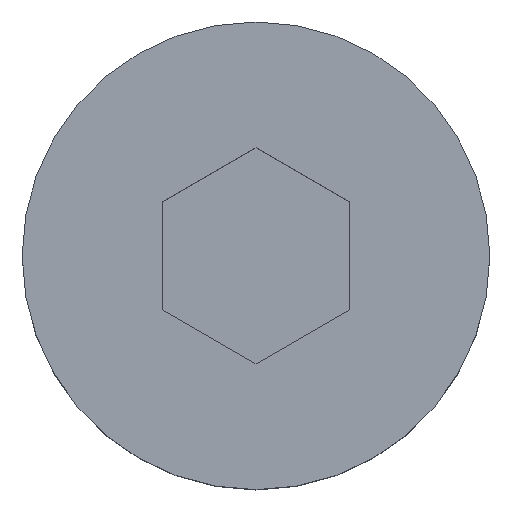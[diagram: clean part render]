
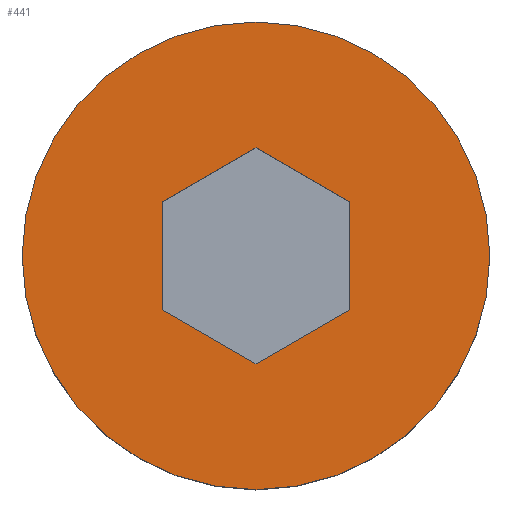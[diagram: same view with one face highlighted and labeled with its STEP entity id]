
A CAD part, top view. The second image highlights one B-rep face of the part: STEP entity #441.
In plain terms, the highlighted planar face has unit normal (0, 0, 1).
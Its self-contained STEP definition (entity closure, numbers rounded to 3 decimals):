
#63 = AXIS2_PLACEMENT_3D ( 'NONE', #468, #466, #451 ) ;
#88 = AXIS2_PLACEMENT_3D ( 'NONE', #752, #748, #743 ) ;
#98 = VERTEX_POINT ( 'NONE', #727 ) ;
#123 = VERTEX_POINT ( 'NONE', #692 ) ;
#156 = DIRECTION ( 'NONE',  ( -1., 0., 0. ) ) ;
#161 = DIRECTION ( 'NONE',  ( 0., 0., -1. ) ) ;
#164 = CARTESIAN_POINT ( 'NONE',  ( 10., 0., 8. ) ) ;
#172 = ORIENTED_EDGE ( 'NONE', *, *, #699, .F. ) ;
#184 = FACE_BOUND ( 'NONE', #589, .T. ) ;
#203 = VERTEX_POINT ( 'NONE', #680 ) ;
#208 = FACE_OUTER_BOUND ( 'NONE', #1060, .T. ) ;
#231 = AXIS2_PLACEMENT_3D ( 'NONE', #164, #161, #156 ) ;
#263 = PLANE ( 'NONE',  #231 ) ;
#290 = CARTESIAN_POINT ( 'NONE',  ( 4., -2.309, 8. ) ) ;
#299 = DIRECTION ( 'NONE',  ( 0., -1., 0. ) ) ;
#350 = CARTESIAN_POINT ( 'NONE',  ( -4., 0., 8. ) ) ;
#356 = CARTESIAN_POINT ( 'NONE',  ( 5.5, -7.794, 8. ) ) ;
#360 = CARTESIAN_POINT ( 'NONE',  ( -4., -2.309, 8. ) ) ;
#365 = DIRECTION ( 'NONE',  ( 0.866, -0.5, 0. ) ) ;
#371 = CARTESIAN_POINT ( 'NONE',  ( 5.5, 7.794, 8. ) ) ;
#380 = CARTESIAN_POINT ( 'NONE',  ( 4., 0., 8. ) ) ;
#387 = DIRECTION ( 'NONE',  ( -0.866, 0.5, 0. ) ) ;
#394 = DIRECTION ( 'NONE',  ( 0.866, 0.5, 0. ) ) ;
#401 = CARTESIAN_POINT ( 'NONE',  ( 9.5, 0.866, 8. ) ) ;
#441 = ADVANCED_FACE ( 'NONE', ( #208, #184 ), #263, .F. ) ;
#447 = DIRECTION ( 'NONE',  ( 0., 1., 0. ) ) ;
#451 = DIRECTION ( 'NONE',  ( 1., 0., 0. ) ) ;
#466 = DIRECTION ( 'NONE',  ( 0., 0., 1. ) ) ;
#468 = CARTESIAN_POINT ( 'NONE',  ( 0., 0., 8. ) ) ;
#489 = CARTESIAN_POINT ( 'NONE',  ( 9.5, -0.866, 8. ) ) ;
#589 = EDGE_LOOP ( 'NONE', ( #935, #927, #919, #939, #952, #172 ) ) ;
#636 = EDGE_CURVE ( 'NONE', #98, #123, #812, .T. ) ;
#661 = EDGE_CURVE ( 'NONE', #123, #98, #809, .T. ) ;
#662 = DIRECTION ( 'NONE',  ( -0.866, -0.5, 0. ) ) ;
#671 = EDGE_CURVE ( 'NONE', #1050, #1023, #1005, .T. ) ;
#679 = EDGE_CURVE ( 'NONE', #203, #1050, #984, .T. ) ;
#680 = CARTESIAN_POINT ( 'NONE',  ( 4., 2.309, 8. ) ) ;
#682 = EDGE_CURVE ( 'NONE', #944, #203, #986, .T. ) ;
#686 = EDGE_CURVE ( 'NONE', #978, #944, #1017, .T. ) ;
#692 = CARTESIAN_POINT ( 'NONE',  ( -10., 0., 8. ) ) ;
#696 = EDGE_CURVE ( 'NONE', #988, #978, #950, .T. ) ;
#699 = EDGE_CURVE ( 'NONE', #1023, #988, #925, .T. ) ;
#727 = CARTESIAN_POINT ( 'NONE',  ( 10., 0., 8. ) ) ;
#743 = DIRECTION ( 'NONE',  ( 1., 0., 0. ) ) ;
#748 = DIRECTION ( 'NONE',  ( 0., 0., 1. ) ) ;
#752 = CARTESIAN_POINT ( 'NONE',  ( 0., 0., 8. ) ) ;
#809 = CIRCLE ( 'NONE', #63, 10. ) ;
#812 = CIRCLE ( 'NONE', #88, 10. ) ;
#863 = VECTOR ( 'NONE', #299, 1000. ) ;
#904 = ORIENTED_EDGE ( 'NONE', *, *, #661, .T. ) ;
#906 = ORIENTED_EDGE ( 'NONE', *, *, #636, .T. ) ;
#915 = VECTOR ( 'NONE', #365, 1000. ) ;
#919 = ORIENTED_EDGE ( 'NONE', *, *, #682, .F. ) ;
#925 = LINE ( 'NONE', #350, #863 ) ;
#927 = ORIENTED_EDGE ( 'NONE', *, *, #679, .F. ) ;
#928 = VECTOR ( 'NONE', #394, 1000. ) ;
#935 = ORIENTED_EDGE ( 'NONE', *, *, #671, .F. ) ;
#939 = ORIENTED_EDGE ( 'NONE', *, *, #686, .F. ) ;
#944 = VERTEX_POINT ( 'NONE', #290 ) ;
#950 = LINE ( 'NONE', #356, #915 ) ;
#952 = ORIENTED_EDGE ( 'NONE', *, *, #696, .F. ) ;
#966 = VECTOR ( 'NONE', #387, 1000. ) ;
#978 = VERTEX_POINT ( 'NONE', #1121 ) ;
#984 = LINE ( 'NONE', #489, #966 ) ;
#986 = LINE ( 'NONE', #380, #989 ) ;
#987 = VECTOR ( 'NONE', #662, 1000. ) ;
#988 = VERTEX_POINT ( 'NONE', #360 ) ;
#989 = VECTOR ( 'NONE', #447, 1000. ) ;
#997 = CARTESIAN_POINT ( 'NONE',  ( 0., 4.619, 8. ) ) ;
#1005 = LINE ( 'NONE', #371, #987 ) ;
#1017 = LINE ( 'NONE', #401, #928 ) ;
#1023 = VERTEX_POINT ( 'NONE', #1132 ) ;
#1050 = VERTEX_POINT ( 'NONE', #997 ) ;
#1060 = EDGE_LOOP ( 'NONE', ( #906, #904 ) ) ;
#1121 = CARTESIAN_POINT ( 'NONE',  ( 0., -4.619, 8. ) ) ;
#1132 = CARTESIAN_POINT ( 'NONE',  ( -4., 2.309, 8. ) ) ;
